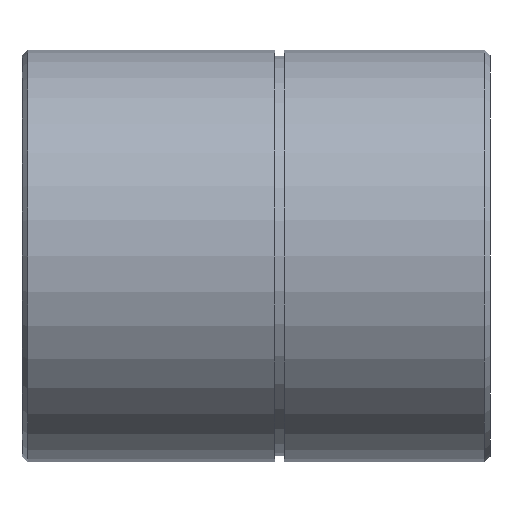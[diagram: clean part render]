
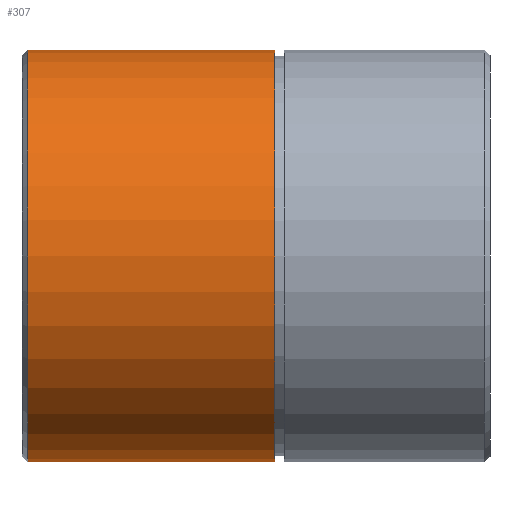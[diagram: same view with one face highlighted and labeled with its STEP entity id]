
A CAD part, left-side view. The second image highlights one B-rep face of the part: STEP entity #307.
In plain terms, the highlighted cylindrical face has radius 11 mm (diameter 22 mm), a partial arc.
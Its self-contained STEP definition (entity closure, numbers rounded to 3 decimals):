
#2 = DIRECTION ( 'NONE',  ( 0., -1., 0. ) ) ;
#6 = VECTOR ( 'NONE', #2, 1000. ) ;
#38 = VECTOR ( 'NONE', #86, 1000. ) ;
#49 = CARTESIAN_POINT ( 'NONE',  ( 0., 11.5, 0. ) ) ;
#60 = EDGE_CURVE ( 'NONE', #424, #397, #693, .T. ) ;
#77 = LINE ( 'NONE', #637, #38 ) ;
#86 = DIRECTION ( 'NONE',  ( 0., -1., 0. ) ) ;
#92 = EDGE_CURVE ( 'NONE', #145, #424, #225, .T. ) ;
#96 = CARTESIAN_POINT ( 'NONE',  ( 0., 11.5, 11. ) ) ;
#101 = ORIENTED_EDGE ( 'NONE', *, *, #138, .T. ) ;
#123 = VERTEX_POINT ( 'NONE', #448 ) ;
#138 = EDGE_CURVE ( 'NONE', #145, #123, #542, .T. ) ;
#141 = AXIS2_PLACEMENT_3D ( 'NONE', #214, #714, #330 ) ;
#145 = VERTEX_POINT ( 'NONE', #379 ) ;
#151 = AXIS2_PLACEMENT_3D ( 'NONE', #634, #519, #241 ) ;
#163 = DIRECTION ( 'NONE',  ( 0., 0., -1. ) ) ;
#214 = CARTESIAN_POINT ( 'NONE',  ( 0., 24.7, 0. ) ) ;
#225 = LINE ( 'NONE', #555, #6 ) ;
#241 = DIRECTION ( 'NONE',  ( 0., 0., -1. ) ) ;
#303 = EDGE_LOOP ( 'NONE', ( #411, #101, #529, #595 ) ) ;
#307 = ADVANCED_FACE ( 'NONE', ( #396 ), #351, .T. ) ;
#330 = DIRECTION ( 'NONE',  ( 0., 0., -1. ) ) ;
#351 = CYLINDRICAL_SURFACE ( 'NONE', #151, 11. ) ;
#379 = CARTESIAN_POINT ( 'NONE',  ( 0., 24.7, 11. ) ) ;
#396 = FACE_OUTER_BOUND ( 'NONE', #303, .T. ) ;
#397 = VERTEX_POINT ( 'NONE', #574 ) ;
#411 = ORIENTED_EDGE ( 'NONE', *, *, #92, .F. ) ;
#424 = VERTEX_POINT ( 'NONE', #96 ) ;
#435 = EDGE_CURVE ( 'NONE', #123, #397, #77, .T. ) ;
#448 = CARTESIAN_POINT ( 'NONE',  ( 0., 24.7, -11. ) ) ;
#519 = DIRECTION ( 'NONE',  ( 0., -1., 0. ) ) ;
#529 = ORIENTED_EDGE ( 'NONE', *, *, #435, .T. ) ;
#542 = CIRCLE ( 'NONE', #141, 11. ) ;
#555 = CARTESIAN_POINT ( 'NONE',  ( 0., 0., 11. ) ) ;
#559 = DIRECTION ( 'NONE',  ( 0., -1., 0. ) ) ;
#574 = CARTESIAN_POINT ( 'NONE',  ( 0., 11.5, -11. ) ) ;
#595 = ORIENTED_EDGE ( 'NONE', *, *, #60, .F. ) ;
#634 = CARTESIAN_POINT ( 'NONE',  ( 0., 0., 0. ) ) ;
#637 = CARTESIAN_POINT ( 'NONE',  ( 0., 0., -11. ) ) ;
#693 = CIRCLE ( 'NONE', #721, 11. ) ;
#714 = DIRECTION ( 'NONE',  ( 0., -1., 0. ) ) ;
#721 = AXIS2_PLACEMENT_3D ( 'NONE', #49, #559, #163 ) ;
